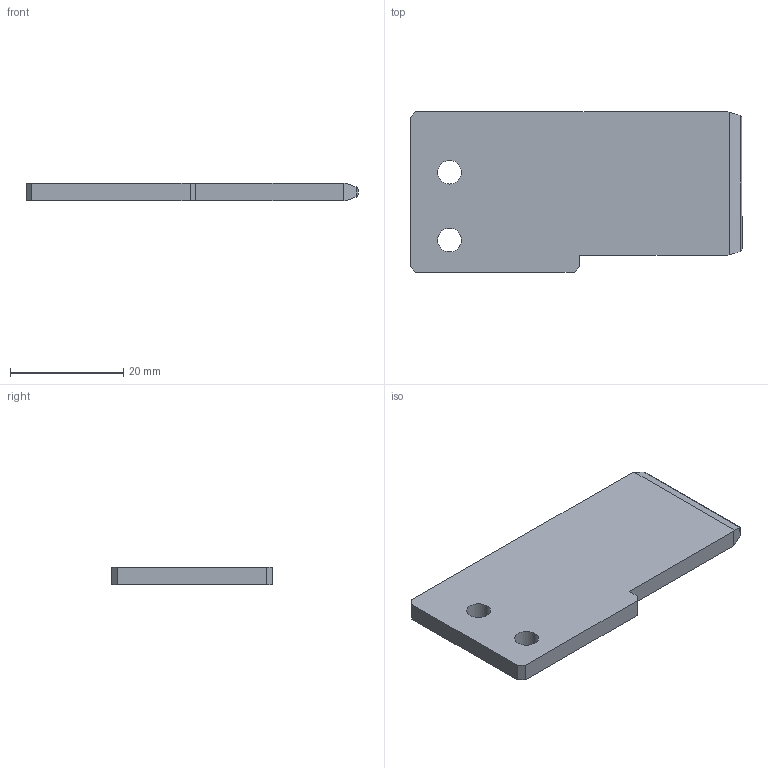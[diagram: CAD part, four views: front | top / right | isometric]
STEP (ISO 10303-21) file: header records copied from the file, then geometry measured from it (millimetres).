
FILE_DESCRIPTION (( 'STEP AP214' ), '1' );
FILE_NAME ('9192-BBC4B002.STEP', '2025-04-09T12:17:58', ( '' ), ( '' ), 'SwSTEP 2.0', 'SolidWorks 2011', '' );
FILE_SCHEMA (( 'AUTOMOTIVE_DESIGN' ));
Length unit declared in the file: millimetre
Products named in the file (1): 9192-BBC4B002
Bounding box: 58.7 x 28.4 x 3.17 mm (x, y, z)
Volume: 4867.5 mm3; surface area: 3687.2 mm2
Topology: 1 solids, 1 shells, 51 faces, 138 edges, 92 vertices
Faces by surface type: plane 37, cylinder 8, bspline 6
Entity records: 2547 total; most frequent: CARTESIAN_POINT 712, ORIENTED_EDGE 276, DIRECTION 218, EDGE_CURVE 138, VECTOR 110, LINE 110, VERTEX_POINT 92, EDGE_LOOP 58
